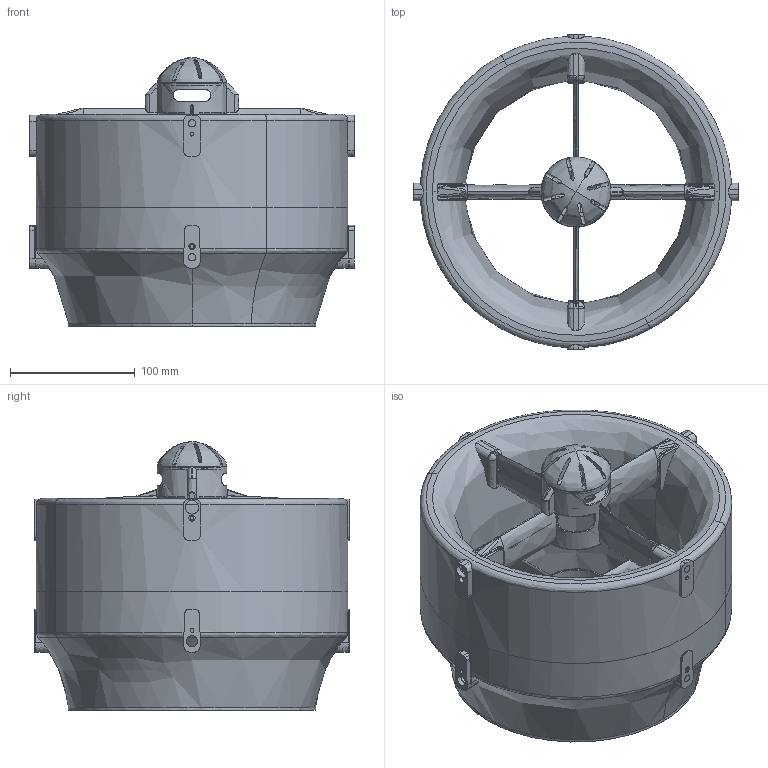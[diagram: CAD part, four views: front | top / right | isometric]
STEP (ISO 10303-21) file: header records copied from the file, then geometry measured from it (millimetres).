
FILE_DESCRIPTION(/* description */ (''),/* implementation_level */ '2;1');
FILE_NAME(/* name */ 'Athena-A-2ET-V1.60',/* time_stamp */ '2017-08-18T18:47:11+02:00',/* author */ (''),/* organization */ (''),/* preprocessor_version */ 'ST-DEVELOPER v15',/* originating_system */ '',/* authorisation */ '');
FILE_SCHEMA (('CONFIG_CONTROL_DESIGN'));
Length unit declared in the file: millimetre
Products named in the file (1): Document
Bounding box: 260 x 252 x 215.37 mm (x, y, z)
Volume: 3249377.5 mm3; surface area: 374667 mm2
Topology: 5 solids, 5 shells, 1406 faces, 3845 edges, 2456 vertices
Faces by surface type: bspline 986, plane 420
Entity records: 80184 total; most frequent: CARTESIAN_POINT 57716, ORIENTED_EDGE 7666, EDGE_CURVE 3833, VERTEX_POINT 2454, B_SPLINE_CURVE_WITH_KNOTS 2429, EDGE_LOOP 1543, ADVANCED_FACE 1404, FACE_OUTER_BOUND 1404
